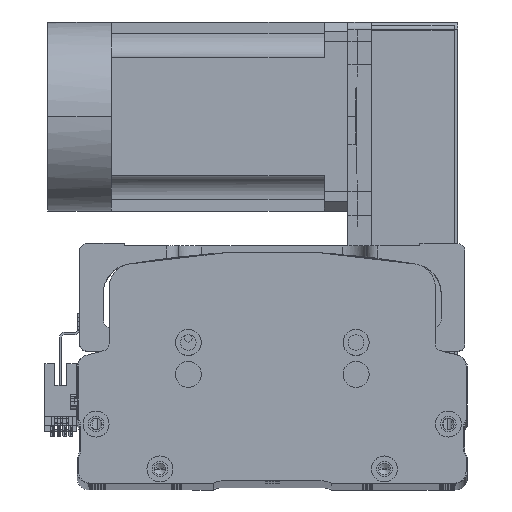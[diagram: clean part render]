
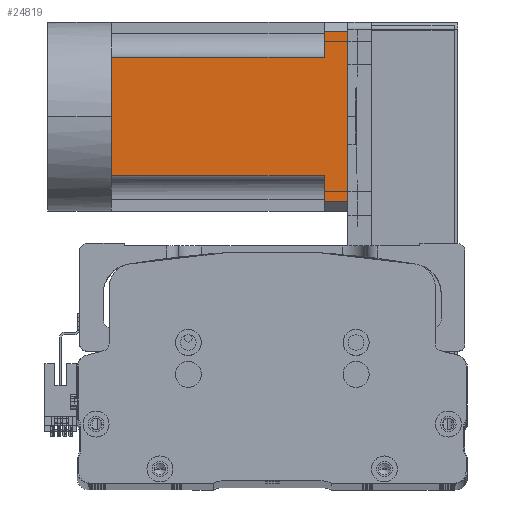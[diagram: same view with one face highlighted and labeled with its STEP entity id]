
A CAD part, top view. The second image highlights one B-rep face of the part: STEP entity #24819.
In plain terms, the highlighted planar face has unit normal (0, 0, 1) as drawn and (0, 0, -1) by its records, which use the part's own axes.
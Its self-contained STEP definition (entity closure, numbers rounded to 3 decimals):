
#3040 = LINE ( 'NONE', #66527, #16983 ) ;
#4620 = CARTESIAN_POINT ( 'NONE',  ( 36., -27., -40. ) ) ;
#5703 = VECTOR ( 'NONE', #10294, 1000. ) ;
#5720 = LINE ( 'NONE', #5863, #30347 ) ;
#5774 = LINE ( 'NONE', #45419, #58173 ) ;
#5863 = CARTESIAN_POINT ( 'NONE',  ( -36., -27., -40. ) ) ;
#6335 = EDGE_CURVE ( 'NONE', #13125, #9099, #8794, .T. ) ;
#8757 = DIRECTION ( 'NONE',  ( -1., 0., 0. ) ) ;
#8794 = LINE ( 'NONE', #4620, #61192 ) ;
#9099 = VERTEX_POINT ( 'NONE', #13888 ) ;
#9229 = LINE ( 'NONE', #60782, #35493 ) ;
#9657 = EDGE_CURVE ( 'NONE', #9099, #47233, #46176, .T. ) ;
#10181 = ORIENTED_EDGE ( 'NONE', *, *, #11255, .T. ) ;
#10294 = DIRECTION ( 'NONE',  ( 0., -1., 0. ) ) ;
#11255 = EDGE_CURVE ( 'NONE', #45544, #54177, #5720, .T. ) ;
#11354 = LINE ( 'NONE', #17137, #23696 ) ;
#11606 = CARTESIAN_POINT ( 'NONE',  ( -25., 90., -40. ) ) ;
#13125 = VERTEX_POINT ( 'NONE', #21332 ) ;
#13888 = CARTESIAN_POINT ( 'NONE',  ( 36., 90., -40. ) ) ;
#14095 = PLANE ( 'NONE',  #64646 ) ;
#15764 = ORIENTED_EDGE ( 'NONE', *, *, #9657, .T. ) ;
#16396 = DIRECTION ( 'NONE',  ( 0., 1., 0. ) ) ;
#16443 = CARTESIAN_POINT ( 'NONE',  ( -40., 0., -40. ) ) ;
#16983 = VECTOR ( 'NONE', #24780, 1000. ) ;
#17137 = CARTESIAN_POINT ( 'NONE',  ( -40., 0., -40. ) ) ;
#19387 = CARTESIAN_POINT ( 'NONE',  ( -40., -27., -40. ) ) ;
#20465 = DIRECTION ( 'NONE',  ( 0., -1., 0. ) ) ;
#21332 = CARTESIAN_POINT ( 'NONE',  ( 36., 100., -40. ) ) ;
#23696 = VECTOR ( 'NONE', #58978, 1000. ) ;
#24643 = ORIENTED_EDGE ( 'NONE', *, *, #58652, .T. ) ;
#24669 = DIRECTION ( 'NONE',  ( 0., 0., -1. ) ) ;
#24685 = CARTESIAN_POINT ( 'NONE',  ( -36., 100., -40. ) ) ;
#24780 = DIRECTION ( 'NONE',  ( -1., 0., 0. ) ) ;
#24819 = ADVANCED_FACE ( 'NONE', ( #52799 ), #14095, .T. ) ;
#25069 = CARTESIAN_POINT ( 'NONE',  ( 25., 90., -40. ) ) ;
#25499 = CARTESIAN_POINT ( 'NONE',  ( 25., -27., -40. ) ) ;
#25746 = EDGE_LOOP ( 'NONE', ( #42142, #42068, #15764, #36966, #44316, #24643, #56187, #51736, #10181 ) ) ;
#30347 = VECTOR ( 'NONE', #16396, 1000. ) ;
#32260 = VECTOR ( 'NONE', #8757, 1000. ) ;
#35407 = VERTEX_POINT ( 'NONE', #43686 ) ;
#35493 = VECTOR ( 'NONE', #65987, 1000. ) ;
#36091 = CARTESIAN_POINT ( 'NONE',  ( 25., 0., -40. ) ) ;
#36371 = LINE ( 'NONE', #16443, #62493 ) ;
#36966 = ORIENTED_EDGE ( 'NONE', *, *, #64332, .T. ) ;
#37306 = DIRECTION ( 'NONE',  ( -1., 0., 0. ) ) ;
#38801 = VERTEX_POINT ( 'NONE', #11606 ) ;
#40389 = DIRECTION ( 'NONE',  ( -1., 0., 0. ) ) ;
#42068 = ORIENTED_EDGE ( 'NONE', *, *, #6335, .T. ) ;
#42142 = ORIENTED_EDGE ( 'NONE', *, *, #51271, .F. ) ;
#43686 = CARTESIAN_POINT ( 'NONE',  ( -25., 0., -40. ) ) ;
#44316 = ORIENTED_EDGE ( 'NONE', *, *, #55568, .T. ) ;
#44745 = CARTESIAN_POINT ( 'NONE',  ( -36., 90., -40. ) ) ;
#45419 = CARTESIAN_POINT ( 'NONE',  ( -40., 90., -40. ) ) ;
#45544 = VERTEX_POINT ( 'NONE', #44745 ) ;
#46176 = LINE ( 'NONE', #55699, #32260 ) ;
#47233 = VERTEX_POINT ( 'NONE', #25069 ) ;
#49493 = EDGE_CURVE ( 'NONE', #38801, #45544, #5774, .T. ) ;
#51271 = EDGE_CURVE ( 'NONE', #13125, #54177, #3040, .T. ) ;
#51736 = ORIENTED_EDGE ( 'NONE', *, *, #49493, .T. ) ;
#52799 = FACE_OUTER_BOUND ( 'NONE', #25746, .T. ) ;
#54100 = EDGE_CURVE ( 'NONE', #35407, #38801, #9229, .T. ) ;
#54177 = VERTEX_POINT ( 'NONE', #24685 ) ;
#55568 = EDGE_CURVE ( 'NONE', #59757, #57931, #11354, .T. ) ;
#55699 = CARTESIAN_POINT ( 'NONE',  ( -40., 90., -40. ) ) ;
#56162 = CARTESIAN_POINT ( 'NONE',  ( 0., 0., -40. ) ) ;
#56187 = ORIENTED_EDGE ( 'NONE', *, *, #54100, .T. ) ;
#57931 = VERTEX_POINT ( 'NONE', #56162 ) ;
#58173 = VECTOR ( 'NONE', #40389, 1000. ) ;
#58652 = EDGE_CURVE ( 'NONE', #57931, #35407, #36371, .T. ) ;
#58978 = DIRECTION ( 'NONE',  ( -1., 0., 0. ) ) ;
#59740 = LINE ( 'NONE', #25499, #5703 ) ;
#59757 = VERTEX_POINT ( 'NONE', #36091 ) ;
#60782 = CARTESIAN_POINT ( 'NONE',  ( -25., -27., -40. ) ) ;
#61192 = VECTOR ( 'NONE', #20465, 1000. ) ;
#61219 = DIRECTION ( 'NONE',  ( -1., 0., 0. ) ) ;
#62493 = VECTOR ( 'NONE', #37306, 1000. ) ;
#64332 = EDGE_CURVE ( 'NONE', #47233, #59757, #59740, .T. ) ;
#64646 = AXIS2_PLACEMENT_3D ( 'NONE', #19387, #24669, #61219 ) ;
#65987 = DIRECTION ( 'NONE',  ( 0., 1., 0. ) ) ;
#66527 = CARTESIAN_POINT ( 'NONE',  ( -40., 100., -40. ) ) ;
